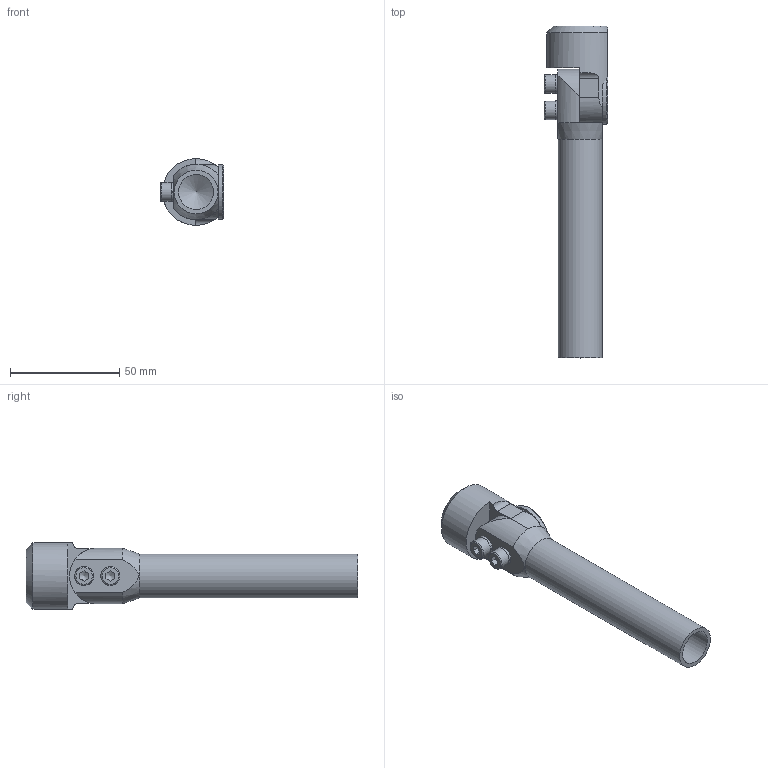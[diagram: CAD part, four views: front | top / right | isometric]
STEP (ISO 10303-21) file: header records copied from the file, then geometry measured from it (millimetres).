
FILE_DESCRIPTION(/* description */ ('Elbow Vacuum Cup Gripper Arm'),/* implementation_level */ '2;1');
FILE_NAME(/* name */ 'EVGA-20-38-18-100.STEP',/* time_stamp */ '2026-02-10T14:30:58-05:00',/* author */ ('Design2'),/* organization */ ('CCS Design LLC'),/* preprocessor_version */ 'ST-DEVELOPER v20',/* originating_system */ 'Autodesk Inventor 2025',/* authorisation */ '');
FILE_SCHEMA (('AUTOMOTIVE_DESIGN { 1 0 10303 214 3 1 1 }'));
Length unit declared in the file: inch
Products named in the file (6): EVGA-20-38-18-100; M-EGA-20-100-S; M-EGA-20-I; M-EVGA-38-18-H; ASME B18.21.2M - 5; ANSI B18.3.1M - M5x0.8 x 20
Assembly tree (7 placements, depth 2):
  EVGA-20-38-18-100
    M-EGA-20-100-S
    M-EGA-20-I
    M-EVGA-38-18-H
    ASME B18.21.2M - 5  x2
    ANSI B18.3.1M - M5x0.8 x 20  x2
Bounding box: 28.89 x 151.85 x 30.48 mm (x, y, z)
Volume: 36980.9 mm3; surface area: 23777.7 mm2
Topology: 7 solids, 7 shells, 89 faces, 208 edges, 137 vertices
Faces by surface type: plane 43, cylinder 29, cone 13, torus 4
Full cylindrical faces by diameter (mm): 4.14 x2, 5 x2, 5.512 x2, 8.5 x2, 8.56 x1, 14.961 x1, 16 x1, 20 x4, 25 x1
Entity records: 2377 total; most frequent: CARTESIAN_POINT 526, DIRECTION 366, ORIENTED_EDGE 316, EDGE_CURVE 158, AXIS2_PLACEMENT_3D 152, VERTEX_POINT 105, EDGE_LOOP 85, FACE_OUTER_BOUND 68
